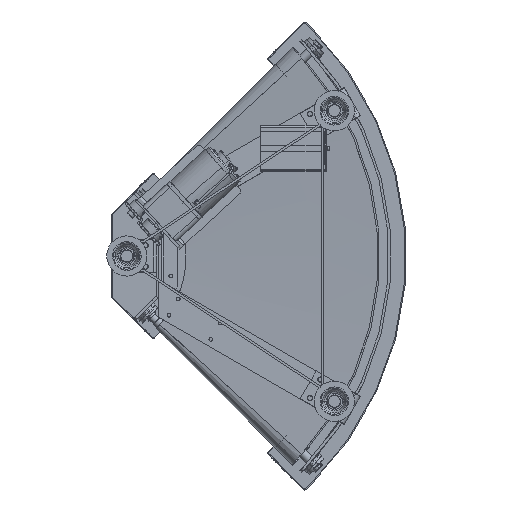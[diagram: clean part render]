
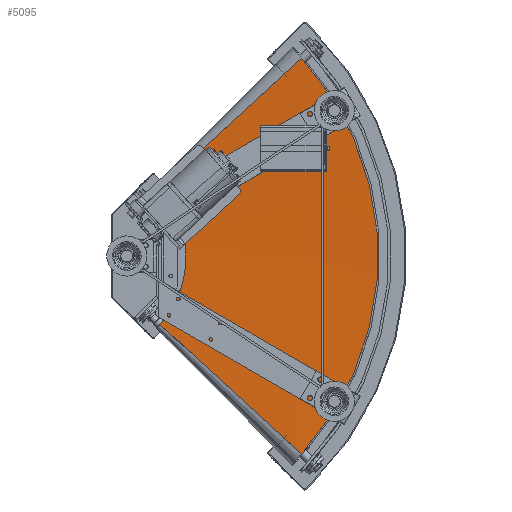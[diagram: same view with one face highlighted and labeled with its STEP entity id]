
A CAD part, front view. The second image highlights one B-rep face of the part: STEP entity #5095.
In plain terms, the highlighted conical face has half-angle 87.215 degrees and reference radius 189.932 mm.
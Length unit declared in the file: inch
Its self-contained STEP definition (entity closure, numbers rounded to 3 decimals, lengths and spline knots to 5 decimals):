
#888=CONICAL_SURFACE('',#37636,7.47764,87.215);
#5095=ADVANCED_FACE('',(#7525),#888,.F.);
#7525=FACE_OUTER_BOUND('',#9535,.T.);
#9535=EDGE_LOOP('',(#22544,#22545,#22546,#22547));
#12072=LINE('',#61057,#14639);
#12073=LINE('',#61062,#14640);
#14639=VECTOR('',#45170,1.);
#14640=VECTOR('',#45173,1.);
#22544=ORIENTED_EDGE('',*,*,#32252,.F.);
#22545=ORIENTED_EDGE('',*,*,#32253,.F.);
#22546=ORIENTED_EDGE('',*,*,#32254,.F.);
#22547=ORIENTED_EDGE('',*,*,#32255,.F.);
#27760=VERTEX_POINT('',#61058);
#27761=VERTEX_POINT('',#61059);
#27762=VERTEX_POINT('',#61061);
#27763=VERTEX_POINT('',#61063);
#32252=EDGE_CURVE('',#27760,#27761,#12072,.T.);
#32253=EDGE_CURVE('',#27762,#27760,#34857,.T.);
#32254=EDGE_CURVE('',#27763,#27762,#12073,.T.);
#32255=EDGE_CURVE('',#27761,#27763,#34858,.T.);
#34857=CIRCLE('',#37634,7.47764);
#34858=CIRCLE('',#37635,21.65087);
#37634=AXIS2_PLACEMENT_3D('',#61060,#45171,#45172);
#37635=AXIS2_PLACEMENT_3D('',#61064,#45174,#45175);
#37636=AXIS2_PLACEMENT_3D('',#61065,#45176,#45177);
#45170=DIRECTION('',(-0.999,0.049,0.));
#45171=DIRECTION('',(0.,1.,0.));
#45172=DIRECTION('',(-0.097,0.,-0.995));
#45173=DIRECTION('',(0.097,-0.049,0.994));
#45174=DIRECTION('',(0.,-1.,0.));
#45175=DIRECTION('',(-0.097,0.,-0.995));
#45176=DIRECTION('',(0.,1.,0.));
#45177=DIRECTION('',(0.,0.,-1.));
#61057=CARTESIAN_POINT('',(-14.56425,0.76399,0.));
#61058=CARTESIAN_POINT('',(-7.47764,0.41927,0.));
#61059=CARTESIAN_POINT('',(-21.65087,1.10871,0.));
#61060=CARTESIAN_POINT('',(0.,0.41927,0.));
#61061=CARTESIAN_POINT('',(-0.72579,0.41927,-7.44233));
#61062=CARTESIAN_POINT('',(-1.41363,0.76399,-14.49548));
#61063=CARTESIAN_POINT('',(-2.10147,1.10871,-21.54864));
#61064=CARTESIAN_POINT('',(0.,1.10871,0.));
#61065=CARTESIAN_POINT('',(0.,0.41927,0.));
